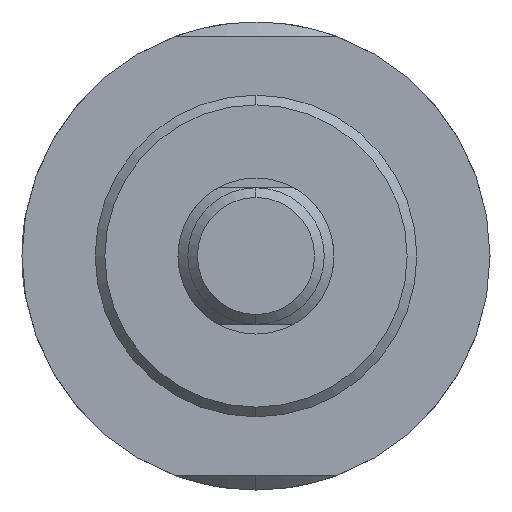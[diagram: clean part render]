
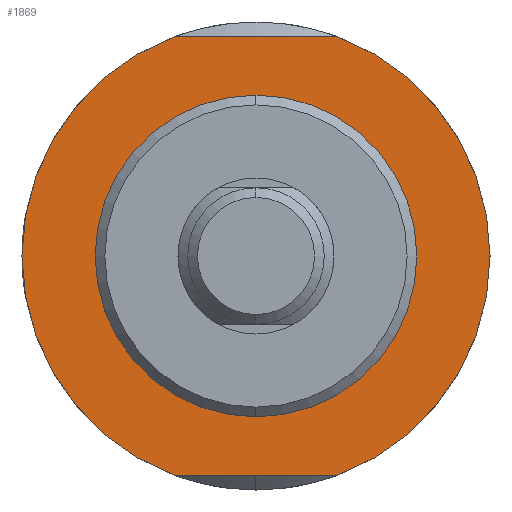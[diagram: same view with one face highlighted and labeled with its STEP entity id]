
A CAD part, left-side view. The second image highlights one B-rep face of the part: STEP entity #1869.
In plain terms, the highlighted planar face has unit normal (-1, 0, 0).
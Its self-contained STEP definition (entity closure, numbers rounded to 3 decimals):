
#26 = VERTEX_POINT ( 'NONE', #145 ) ;
#109 = DIRECTION ( 'NONE',  ( 0., 0., 1. ) ) ;
#145 = CARTESIAN_POINT ( 'NONE',  ( 50., 8.352, -22.5 ) ) ;
#158 = DIRECTION ( 'NONE',  ( -1., 0., 0. ) ) ;
#183 = DIRECTION ( 'NONE',  ( -1., 0., 0. ) ) ;
#185 = CIRCLE ( 'NONE', #1829, 24. ) ;
#209 = EDGE_LOOP ( 'NONE', ( #539, #1387, #633, #1220 ) ) ;
#260 = AXIS2_PLACEMENT_3D ( 'NONE', #265, #1915, #1224 ) ;
#265 = CARTESIAN_POINT ( 'NONE',  ( 50., 0., -24. ) ) ;
#268 = DIRECTION ( 'NONE',  ( 0., 0., 1. ) ) ;
#294 = CARTESIAN_POINT ( 'NONE',  ( 50., 0., -16.5 ) ) ;
#352 = CIRCLE ( 'NONE', #1420, 24. ) ;
#446 = FACE_OUTER_BOUND ( 'NONE', #209, .T. ) ;
#481 = CARTESIAN_POINT ( 'NONE',  ( 50., -8.352, 22.5 ) ) ;
#488 = VERTEX_POINT ( 'NONE', #1073 ) ;
#539 = ORIENTED_EDGE ( 'NONE', *, *, #1940, .T. ) ;
#567 = DIRECTION ( 'NONE',  ( -1., 0., 0. ) ) ;
#611 = ORIENTED_EDGE ( 'NONE', *, *, #1322, .F. ) ;
#616 = PLANE ( 'NONE',  #260 ) ;
#625 = VECTOR ( 'NONE', #1684, 1000. ) ;
#630 = AXIS2_PLACEMENT_3D ( 'NONE', #702, #183, #1408 ) ;
#633 = ORIENTED_EDGE ( 'NONE', *, *, #821, .T. ) ;
#702 = CARTESIAN_POINT ( 'NONE',  ( 50., 0., 0. ) ) ;
#706 = EDGE_CURVE ( 'NONE', #1252, #488, #769, .T. ) ;
#769 = CIRCLE ( 'NONE', #1341, 16.5 ) ;
#785 = CARTESIAN_POINT ( 'NONE',  ( 50., -8.352, -22.5 ) ) ;
#787 = CARTESIAN_POINT ( 'NONE',  ( 50., 8.352, 22.5 ) ) ;
#821 = EDGE_CURVE ( 'NONE', #1054, #1743, #352, .T. ) ;
#830 = ORIENTED_EDGE ( 'NONE', *, *, #706, .F. ) ;
#838 = LINE ( 'NONE', #1000, #1385 ) ;
#868 = DIRECTION ( 'NONE',  ( 0., 0., 1. ) ) ;
#928 = VERTEX_POINT ( 'NONE', #787 ) ;
#929 = EDGE_LOOP ( 'NONE', ( #611, #830 ) ) ;
#936 = DIRECTION ( 'NONE',  ( 0., 1., 0. ) ) ;
#1000 = CARTESIAN_POINT ( 'NONE',  ( 50., 15., -22.5 ) ) ;
#1054 = VERTEX_POINT ( 'NONE', #785 ) ;
#1073 = CARTESIAN_POINT ( 'NONE',  ( 50., 0., 16.5 ) ) ;
#1088 = DIRECTION ( 'NONE',  ( -1., 0., 0. ) ) ;
#1103 = CIRCLE ( 'NONE', #630, 16.5 ) ;
#1197 = CARTESIAN_POINT ( 'NONE',  ( 50., 0., 0. ) ) ;
#1215 = CARTESIAN_POINT ( 'NONE',  ( 50., 0., 0. ) ) ;
#1220 = ORIENTED_EDGE ( 'NONE', *, *, #1620, .F. ) ;
#1224 = DIRECTION ( 'NONE',  ( 0., 0., -1. ) ) ;
#1252 = VERTEX_POINT ( 'NONE', #294 ) ;
#1301 = CARTESIAN_POINT ( 'NONE',  ( 50., 15., 22.5 ) ) ;
#1322 = EDGE_CURVE ( 'NONE', #488, #1252, #1103, .T. ) ;
#1341 = AXIS2_PLACEMENT_3D ( 'NONE', #1433, #567, #868 ) ;
#1385 = VECTOR ( 'NONE', #936, 1000. ) ;
#1387 = ORIENTED_EDGE ( 'NONE', *, *, #1878, .F. ) ;
#1408 = DIRECTION ( 'NONE',  ( 0., 0., 1. ) ) ;
#1420 = AXIS2_PLACEMENT_3D ( 'NONE', #1215, #1088, #109 ) ;
#1433 = CARTESIAN_POINT ( 'NONE',  ( 50., 0., 0. ) ) ;
#1620 = EDGE_CURVE ( 'NONE', #928, #1743, #1961, .T. ) ;
#1684 = DIRECTION ( 'NONE',  ( 0., -1., 0. ) ) ;
#1743 = VERTEX_POINT ( 'NONE', #481 ) ;
#1829 = AXIS2_PLACEMENT_3D ( 'NONE', #1197, #158, #268 ) ;
#1869 = ADVANCED_FACE ( 'NONE', ( #1918, #446 ), #616, .F. ) ;
#1878 = EDGE_CURVE ( 'NONE', #1054, #26, #838, .T. ) ;
#1915 = DIRECTION ( 'NONE',  ( 1., 0., 0. ) ) ;
#1918 = FACE_BOUND ( 'NONE', #929, .T. ) ;
#1940 = EDGE_CURVE ( 'NONE', #928, #26, #185, .T. ) ;
#1961 = LINE ( 'NONE', #1301, #625 ) ;
